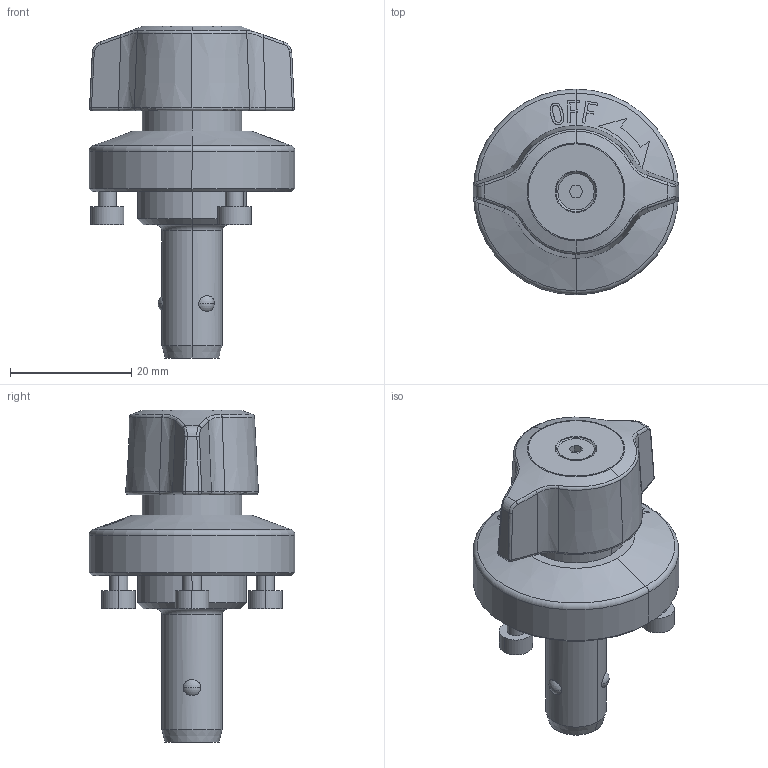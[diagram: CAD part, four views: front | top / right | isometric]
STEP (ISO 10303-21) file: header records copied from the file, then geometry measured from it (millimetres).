
FILE_DESCRIPTION (( 'STEP AP203' ), '1' );
FILE_NAME ('qcwe1034-20-sus.STEP', '2021-10-21T08:28:02', ( '' ), ( '' ), 'SwSTEP 2.0', 'SolidWorks 2020', '' );
FILE_SCHEMA (( 'CONFIG_CONTROL_DESIGN' ));
Length unit declared in the file: millimetre
Products named in the file (6): qcwe1034-20-sus_04; qcwe1034-20-sus; qcwe1034-20-sus_05; qcwe1034-20-sus_02; qcwe1034-20-sus_03; qcwe1034-20-sus_01
Assembly tree (5 placements, depth 2):
  qcwe1034-20-sus
    qcwe1034-20-sus_01
    qcwe1034-20-sus_02
    qcwe1034-20-sus_03
    qcwe1034-20-sus_04
    qcwe1034-20-sus_05
Bounding box: 34 x 34 x 54.85 mm (x, y, z)
Volume: 17347.9 mm3; surface area: 7405.8 mm2
Topology: 5 solids, 5 shells, 259 faces, 607 edges, 381 vertices
Faces by surface type: plane 91, bspline 56, cone 40, cylinder 38, torus 20, sphere 14
Entity records: 9845 total; most frequent: CARTESIAN_POINT 3717, ORIENTED_EDGE 1206, DIRECTION 1025, EDGE_CURVE 603, AXIS2_PLACEMENT_3D 405, VERTEX_POINT 381, EDGE_LOOP 286, FACE_OUTER_BOUND 259
